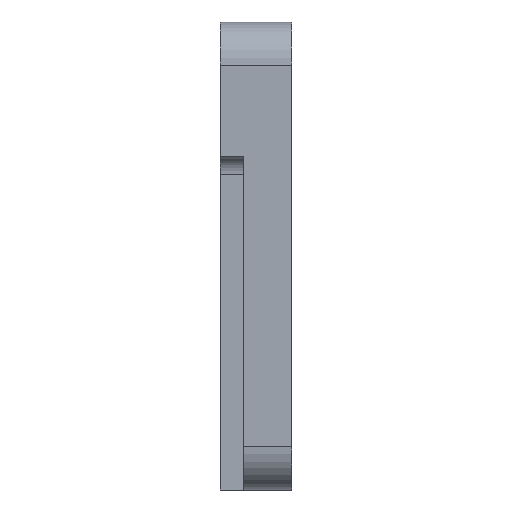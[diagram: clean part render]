
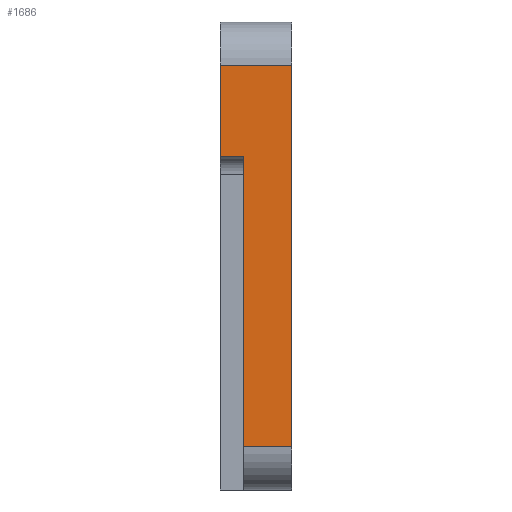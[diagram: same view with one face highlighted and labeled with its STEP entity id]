
A CAD part, left-side view. The second image highlights one B-rep face of the part: STEP entity #1686.
In plain terms, the highlighted planar face has unit normal (-1, 0, 0).
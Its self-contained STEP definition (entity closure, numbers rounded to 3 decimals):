
#51 = VERTEX_POINT ( 'NONE', #888 ) ;
#83 = VECTOR ( 'NONE', #879, 1000. ) ;
#94 = DIRECTION ( 'NONE',  ( 0., 0., -1. ) ) ;
#135 = CARTESIAN_POINT ( 'NONE',  ( -9.995, 10., 14.859 ) ) ;
#194 = LINE ( 'NONE', #205, #83 ) ;
#205 = CARTESIAN_POINT ( 'NONE',  ( -9.995, 10., 67.911 ) ) ;
#261 = VERTEX_POINT ( 'NONE', #1364 ) ;
#417 = DIRECTION ( 'NONE',  ( 0., -1., 0. ) ) ;
#470 = LINE ( 'NONE', #135, #1343 ) ;
#502 = DIRECTION ( 'NONE',  ( 0., 0., 1. ) ) ;
#519 = CARTESIAN_POINT ( 'NONE',  ( -9.995, 10., 55.24 ) ) ;
#593 = PLANE ( 'NONE',  #1287 ) ;
#597 = CARTESIAN_POINT ( 'NONE',  ( -9.995, 0., 14.859 ) ) ;
#654 = CARTESIAN_POINT ( 'NONE',  ( -9.995, 10., 73.911 ) ) ;
#667 = ORIENTED_EDGE ( 'NONE', *, *, #1212, .T. ) ;
#691 = VERTEX_POINT ( 'NONE', #1966 ) ;
#749 = LINE ( 'NONE', #764, #1035 ) ;
#764 = CARTESIAN_POINT ( 'NONE',  ( -9.995, 6.709, 73.911 ) ) ;
#793 = ORIENTED_EDGE ( 'NONE', *, *, #886, .T. ) ;
#803 = DIRECTION ( 'NONE',  ( 0., -1., 0. ) ) ;
#843 = CARTESIAN_POINT ( 'NONE',  ( -9.995, 6.709, 14.859 ) ) ;
#856 = EDGE_LOOP ( 'NONE', ( #793, #1764, #667, #1905, #1897, #1853 ) ) ;
#862 = LINE ( 'NONE', #654, #1347 ) ;
#879 = DIRECTION ( 'NONE',  ( 0., 1., 0. ) ) ;
#886 = EDGE_CURVE ( 'NONE', #1638, #261, #1407, .T. ) ;
#888 = CARTESIAN_POINT ( 'NONE',  ( -9.995, 0., 67.911 ) ) ;
#918 = VERTEX_POINT ( 'NONE', #597 ) ;
#1035 = VECTOR ( 'NONE', #2125, 1000. ) ;
#1038 = VECTOR ( 'NONE', #1047, 1000. ) ;
#1047 = DIRECTION ( 'NONE',  ( 0., 0., 1. ) ) ;
#1102 = CARTESIAN_POINT ( 'NONE',  ( -9.995, 10., 55.24 ) ) ;
#1125 = CARTESIAN_POINT ( 'NONE',  ( -9.995, 10., 73.911 ) ) ;
#1212 = EDGE_CURVE ( 'NONE', #1303, #918, #470, .T. ) ;
#1287 = AXIS2_PLACEMENT_3D ( 'NONE', #1125, #1789, #94 ) ;
#1303 = VERTEX_POINT ( 'NONE', #843 ) ;
#1343 = VECTOR ( 'NONE', #803, 1000. ) ;
#1347 = VECTOR ( 'NONE', #502, 1000. ) ;
#1364 = CARTESIAN_POINT ( 'NONE',  ( -9.995, 6.709, 55.24 ) ) ;
#1407 = LINE ( 'NONE', #1102, #1477 ) ;
#1477 = VECTOR ( 'NONE', #417, 1000. ) ;
#1606 = FACE_OUTER_BOUND ( 'NONE', #856, .T. ) ;
#1638 = VERTEX_POINT ( 'NONE', #519 ) ;
#1681 = CARTESIAN_POINT ( 'NONE',  ( -9.995, 0., 73.911 ) ) ;
#1686 = ADVANCED_FACE ( 'NONE', ( #1606 ), #593, .F. ) ;
#1720 = EDGE_CURVE ( 'NONE', #261, #1303, #749, .T. ) ;
#1764 = ORIENTED_EDGE ( 'NONE', *, *, #1720, .T. ) ;
#1789 = DIRECTION ( 'NONE',  ( 1., 0., 0. ) ) ;
#1853 = ORIENTED_EDGE ( 'NONE', *, *, #2026, .F. ) ;
#1880 = LINE ( 'NONE', #1681, #1038 ) ;
#1897 = ORIENTED_EDGE ( 'NONE', *, *, #1914, .T. ) ;
#1905 = ORIENTED_EDGE ( 'NONE', *, *, #2185, .T. ) ;
#1914 = EDGE_CURVE ( 'NONE', #51, #691, #194, .T. ) ;
#1966 = CARTESIAN_POINT ( 'NONE',  ( -9.995, 10., 67.911 ) ) ;
#2026 = EDGE_CURVE ( 'NONE', #1638, #691, #862, .T. ) ;
#2125 = DIRECTION ( 'NONE',  ( 0., 0., -1. ) ) ;
#2185 = EDGE_CURVE ( 'NONE', #918, #51, #1880, .T. ) ;
